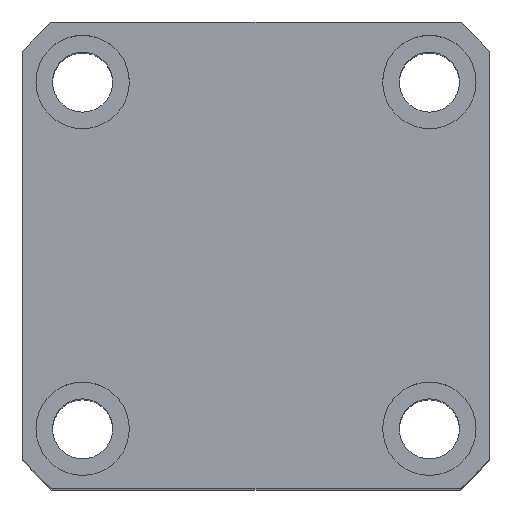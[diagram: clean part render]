
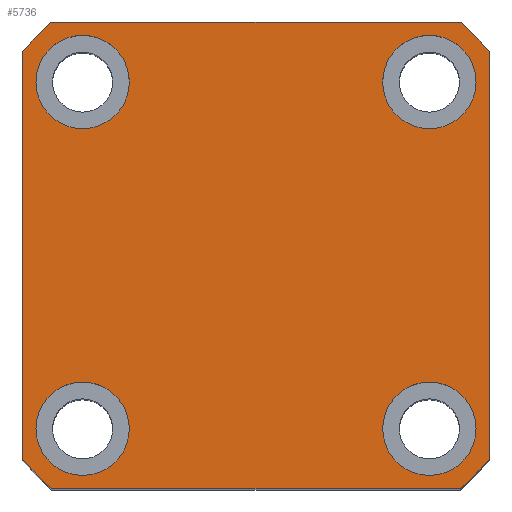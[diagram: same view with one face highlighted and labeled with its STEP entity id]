
A CAD part, top view. The second image highlights one B-rep face of the part: STEP entity #5736.
In plain terms, the highlighted planar face has unit normal (0, 0, 1).
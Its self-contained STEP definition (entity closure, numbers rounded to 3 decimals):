
#548=LINE('',#19411,#1430);
#559=LINE('',#19721,#1441);
#562=LINE('',#19727,#1444);
#565=LINE('',#19733,#1447);
#1430=VECTOR('',#13028,1.);
#1441=VECTOR('',#13173,1.);
#1444=VECTOR('',#13178,1.);
#1447=VECTOR('',#13183,1.);
#4821=PLANE('',#12526);
#5736=ADVANCED_FACE('',(#6382,#6383,#6384,#6385,#6386),#4821,.T.);
#6234=CIRCLE('',#12502,7.);
#6236=CIRCLE('',#12505,7.);
#6238=CIRCLE('',#12508,7.);
#6240=CIRCLE('',#12511,7.);
#6246=CIRCLE('',#12522,46.5);
#6247=CIRCLE('',#12523,46.5);
#6248=CIRCLE('',#12524,46.5);
#6249=CIRCLE('',#12525,46.5);
#6382=FACE_BOUND('',#6604,.T.);
#6383=FACE_BOUND('',#6605,.T.);
#6384=FACE_BOUND('',#6606,.T.);
#6385=FACE_BOUND('',#6607,.T.);
#6386=FACE_BOUND('',#6608,.T.);
#6604=EDGE_LOOP('',(#7493));
#6605=EDGE_LOOP('',(#7494));
#6606=EDGE_LOOP('',(#7495));
#6607=EDGE_LOOP('',(#7496));
#6608=EDGE_LOOP('',(#7497,#7498,#7499,#7500,#7501,#7502,#7503,#7504));
#7493=ORIENTED_EDGE('',*,*,#10874,.F.);
#7494=ORIENTED_EDGE('',*,*,#10876,.F.);
#7495=ORIENTED_EDGE('',*,*,#10878,.F.);
#7496=ORIENTED_EDGE('',*,*,#10880,.F.);
#7497=ORIENTED_EDGE('',*,*,#10890,.T.);
#7498=ORIENTED_EDGE('',*,*,#10898,.T.);
#7499=ORIENTED_EDGE('',*,*,#10830,.T.);
#7500=ORIENTED_EDGE('',*,*,#10899,.T.);
#7501=ORIENTED_EDGE('',*,*,#10893,.T.);
#7502=ORIENTED_EDGE('',*,*,#10900,.T.);
#7503=ORIENTED_EDGE('',*,*,#10896,.T.);
#7504=ORIENTED_EDGE('',*,*,#10901,.T.);
#9874=VERTEX_POINT('',#19409);
#9876=VERTEX_POINT('',#19412);
#9916=VERTEX_POINT('',#19686);
#9918=VERTEX_POINT('',#19691);
#9920=VERTEX_POINT('',#19696);
#9922=VERTEX_POINT('',#19701);
#9930=VERTEX_POINT('',#19720);
#9931=VERTEX_POINT('',#19722);
#9932=VERTEX_POINT('',#19726);
#9933=VERTEX_POINT('',#19728);
#9934=VERTEX_POINT('',#19732);
#9935=VERTEX_POINT('',#19734);
#10830=EDGE_CURVE('',#9876,#9874,#548,.T.);
#10874=EDGE_CURVE('',#9916,#9916,#6234,.T.);
#10876=EDGE_CURVE('',#9918,#9918,#6236,.T.);
#10878=EDGE_CURVE('',#9920,#9920,#6238,.T.);
#10880=EDGE_CURVE('',#9922,#9922,#6240,.T.);
#10890=EDGE_CURVE('',#9931,#9930,#559,.T.);
#10893=EDGE_CURVE('',#9933,#9932,#562,.T.);
#10896=EDGE_CURVE('',#9935,#9934,#565,.T.);
#10898=EDGE_CURVE('',#9930,#9876,#6246,.T.);
#10899=EDGE_CURVE('',#9874,#9933,#6247,.T.);
#10900=EDGE_CURVE('',#9932,#9935,#6248,.T.);
#10901=EDGE_CURVE('',#9934,#9931,#6249,.T.);
#12502=AXIS2_PLACEMENT_3D('',#19685,#13135,#13136);
#12505=AXIS2_PLACEMENT_3D('',#19690,#13141,#13142);
#12508=AXIS2_PLACEMENT_3D('',#19695,#13147,#13148);
#12511=AXIS2_PLACEMENT_3D('',#19700,#13153,#13154);
#12522=AXIS2_PLACEMENT_3D('',#19737,#13187,#13188);
#12523=AXIS2_PLACEMENT_3D('',#19738,#13189,#13190);
#12524=AXIS2_PLACEMENT_3D('',#19739,#13191,#13192);
#12525=AXIS2_PLACEMENT_3D('',#19740,#13193,#13194);
#12526=AXIS2_PLACEMENT_3D('',#19741,#13195,#13196);
#13028=DIRECTION('',(-1.,0.,0.));
#13135=DIRECTION('',(0.,0.,1.));
#13136=DIRECTION('',(1.,0.,0.));
#13141=DIRECTION('',(0.,0.,1.));
#13142=DIRECTION('',(1.,0.,0.));
#13147=DIRECTION('',(0.,0.,1.));
#13148=DIRECTION('',(1.,0.,0.));
#13153=DIRECTION('',(0.,0.,1.));
#13154=DIRECTION('',(1.,0.,0.));
#13173=DIRECTION('',(0.,1.,0.));
#13178=DIRECTION('',(0.,-1.,0.));
#13183=DIRECTION('',(1.,0.,0.));
#13187=DIRECTION('',(0.,0.,1.));
#13188=DIRECTION('',(1.,0.,0.));
#13189=DIRECTION('',(0.,0.,1.));
#13190=DIRECTION('',(1.,0.,0.));
#13191=DIRECTION('',(0.,0.,1.));
#13192=DIRECTION('',(1.,0.,0.));
#13193=DIRECTION('',(0.,0.,1.));
#13194=DIRECTION('',(1.,0.,0.));
#13195=DIRECTION('',(0.,0.,1.));
#13196=DIRECTION('',(-1.,0.,0.));
#19409=CARTESIAN_POINT('',(-14.707,23.209,91.85));
#19411=CARTESIAN_POINT('',(-19.092,23.209,91.85));
#19412=CARTESIAN_POINT('',(46.522,23.209,91.85));
#19685=CARTESIAN_POINT('',(-10.092,-37.791,91.85));
#19686=CARTESIAN_POINT('',(-3.092,-37.791,91.85));
#19690=CARTESIAN_POINT('',(41.908,-37.791,91.85));
#19691=CARTESIAN_POINT('',(48.908,-37.791,91.85));
#19695=CARTESIAN_POINT('',(41.908,14.209,91.85));
#19696=CARTESIAN_POINT('',(48.908,14.209,91.85));
#19700=CARTESIAN_POINT('',(-10.092,14.209,91.85));
#19701=CARTESIAN_POINT('',(-3.092,14.209,91.85));
#19720=CARTESIAN_POINT('',(50.908,18.824,91.85));
#19721=CARTESIAN_POINT('',(50.908,23.209,91.85));
#19722=CARTESIAN_POINT('',(50.908,-42.406,91.85));
#19726=CARTESIAN_POINT('',(-19.092,-42.406,91.85));
#19727=CARTESIAN_POINT('',(-19.092,23.209,91.85));
#19728=CARTESIAN_POINT('',(-19.092,18.824,91.85));
#19732=CARTESIAN_POINT('',(46.522,-46.791,91.85));
#19733=CARTESIAN_POINT('',(-19.092,-46.791,91.85));
#19734=CARTESIAN_POINT('',(-14.707,-46.791,91.85));
#19737=CARTESIAN_POINT('',(15.908,-11.791,91.85));
#19738=CARTESIAN_POINT('',(15.908,-11.791,91.85));
#19739=CARTESIAN_POINT('',(15.908,-11.791,91.85));
#19740=CARTESIAN_POINT('',(15.908,-11.791,91.85));
#19741=CARTESIAN_POINT('',(15.908,-11.791,91.85));
